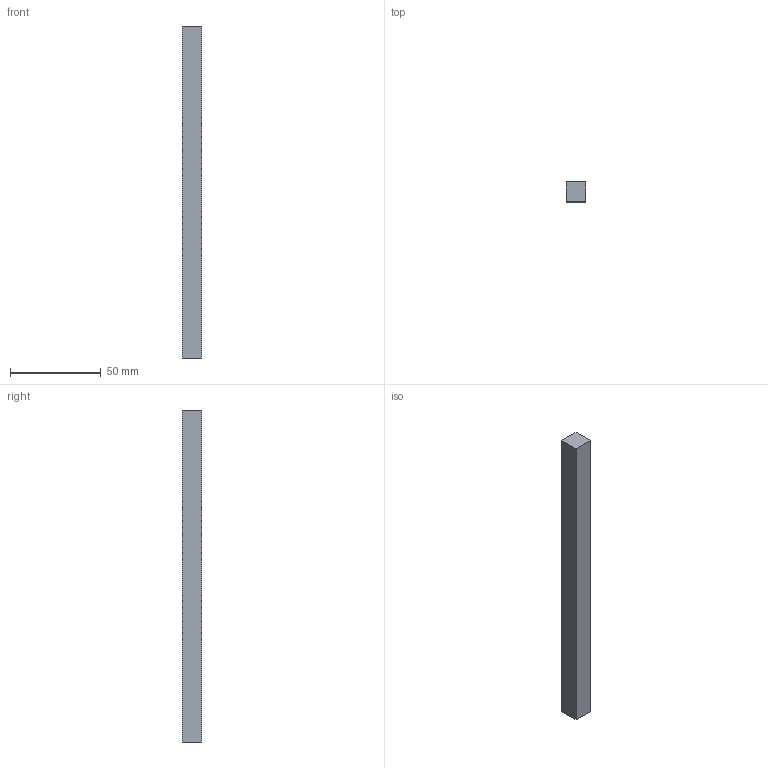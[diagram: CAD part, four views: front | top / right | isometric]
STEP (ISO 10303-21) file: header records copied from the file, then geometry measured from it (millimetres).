
FILE_DESCRIPTION(('Open CASCADE Model'),'2;1');
FILE_NAME('Open CASCADE Shape Model','2026-11-18T16:59:36',('Author'),( 'Open CASCADE'),'Open CASCADE STEP processor 7.9','Open CASCADE 7.9' ,'Unknown');
FILE_SCHEMA(('AUTOMOTIVE_DESIGN { 1 0 10303 214 1 1 1 1 }'));
Length unit declared in the file: millimetre
Products named in the file (1): Open CASCADE STEP translator 7.9 11
Bounding box: 11 x 11 x 183 mm (x, y, z)
Volume: 22143 mm3; surface area: 8294 mm2
Topology: 1 solids, 1 shells, 6 faces, 12 edges, 8 vertices
Faces by surface type: plane 6
Entity records: 322 total; most frequent: CARTESIAN_POINT 51, DIRECTION 50, LINE 36, VECTOR 36, ORIENTED_EDGE 24, PCURVE 24, DEFINITIONAL_REPRESENTATION 24, EDGE_CURVE 12
